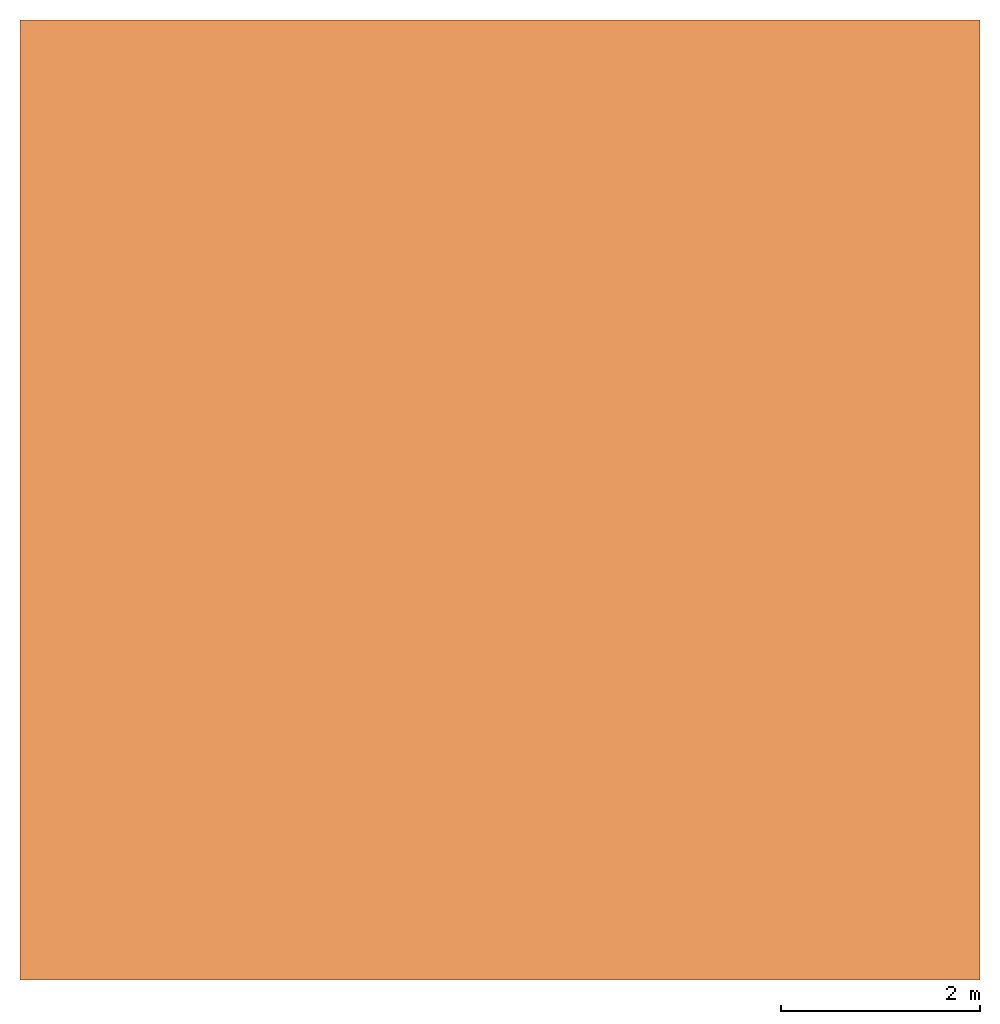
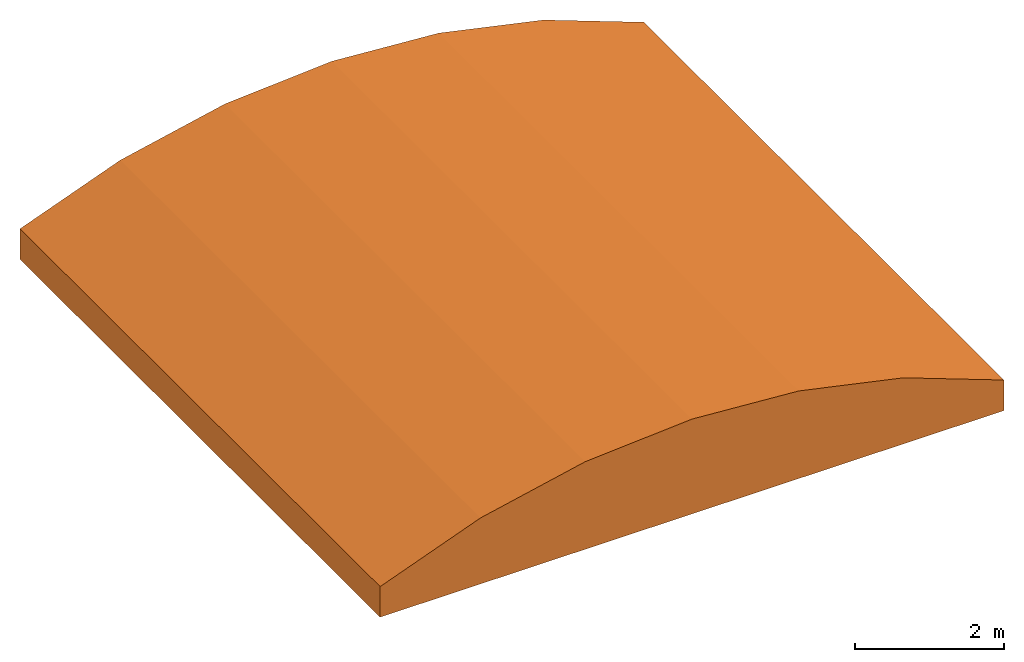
# One storey: 1 proxy.
"""IFC4 building model written with IfcOpenShell, lengths in metres."""

from ifc_helpers import new_model, entity, si_unit, converted_unit, derived_unit, frame, origin, place, context, subcontext, project, spatial, faceted_brep, element, save


model = new_model("IFC4")

# Units and contexts
model_context = context("Model", 3, precision=1e-05, world=origin())
body_context = subcontext(model_context, "Body", "Model", "MODEL_VIEW")
ifc_project = project(units=[si_unit("LENGTHUNIT", "METRE"), si_unit("AREAUNIT", "SQUARE_METRE"), si_unit("VOLUMEUNIT", "CUBIC_METRE"), si_unit("MASSUNIT", "GRAM", prefix="KILO"), converted_unit("PLANEANGLEUNIT", "DEGREE", entity("IfcPlaneAngleMeasure", 0.0174532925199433), si_unit("PLANEANGLEUNIT", "RADIAN"), dimensions=[0, 0, 0, 0, 0, 0, 0]), derived_unit("THERMALTRANSMITTANCEUNIT", [(si_unit("POWERUNIT", "WATT"), 1), (si_unit("THERMODYNAMICTEMPERATUREUNIT", "KELVIN"), -1), (si_unit("LENGTHUNIT", "METRE"), -2)]), derived_unit("VOLUMETRICFLOWRATEUNIT", [(si_unit("LENGTHUNIT", "METRE"), 3), (converted_unit("TIMEUNIT", "hour", entity("IfcTimeMeasure", 3600.0), si_unit("TIMEUNIT", "SECOND"), dimensions=[0, 0, 1, 0, 0, 0, 0]), -1), (si_unit("LENGTHUNIT", "METRE"), -1)])], contexts=[model_context])

# Site, building, storey
site_placement = place(None, origin())
site = spatial("IfcSite", under=ifc_project, at=site_placement, Name="Liegenschaft", CompositionType="ELEMENT")
building_placement = place(site_placement, origin())
building = spatial("IfcBuilding", under=site, at=building_placement, Name="Gebäude", CompositionType="ELEMENT")
storey_placement = place(building_placement, origin())
storey = spatial("IfcBuildingStorey", under=building, at=storey_placement, Name="Geschoss 04", CompositionType="ELEMENT", Elevation=0.0)

# Proxy
proxy_placement = place(storey_placement, frame((169.531764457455, -3.59326912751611, 6.25000000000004)))
element("IfcBuildingElementProxy", 1, at=proxy_placement, inside=storey, context=body_context, shape_type="Brep", body=[
    faceted_brep([(9.64999999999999, 0.0, 0.5), (9.64999999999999, 9.65000000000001, 0.5), (9.64999999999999, 9.65000000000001, 0.0), (9.64999999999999, 0.0, 0.0), (8.09742132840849, 0.0, 1.07979792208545), (8.09742132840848, 9.65000000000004, 1.07979792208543), (6.47807469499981, 0.0, 1.43247715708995), (6.4780746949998, 9.65000000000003, 1.43247715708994), (4.82499999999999, 0.0, 1.55084190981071), (4.82499999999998, 9.65000000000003, 1.5508419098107), (3.17192530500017, 0.0, 1.43247715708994), (3.17192530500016, 9.65000000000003, 1.43247715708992), (1.55257867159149, 0.0, 1.07979792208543), (1.55257867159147, 9.65000000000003, 1.07979792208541), (0.0, 0.0, 0.499999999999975), (0.0, 9.65000000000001, 0.499999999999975), (0.0, 0.0, 0.0), (0.0, 9.65000000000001, 0.0)], [[[0, 1, 2, 3]], [[1, 0, 4, 5]], [[5, 4, 6, 7]], [[7, 6, 8, 9]], [[9, 8, 10, 11]], [[11, 10, 12, 13]], [[13, 12, 14, 15]], [[15, 14, 16, 17]], [[1, 5, 7, 9, 11, 13, 15, 17, 2]], [[14, 12, 10, 8, 6, 4, 0, 3, 16]], [[17, 16, 3, 2]]], orient=[[False], [False], [False], [False], [False], [False], [False], [False], [False], [False], [False]]),
])

save(model, "model.ifc")
